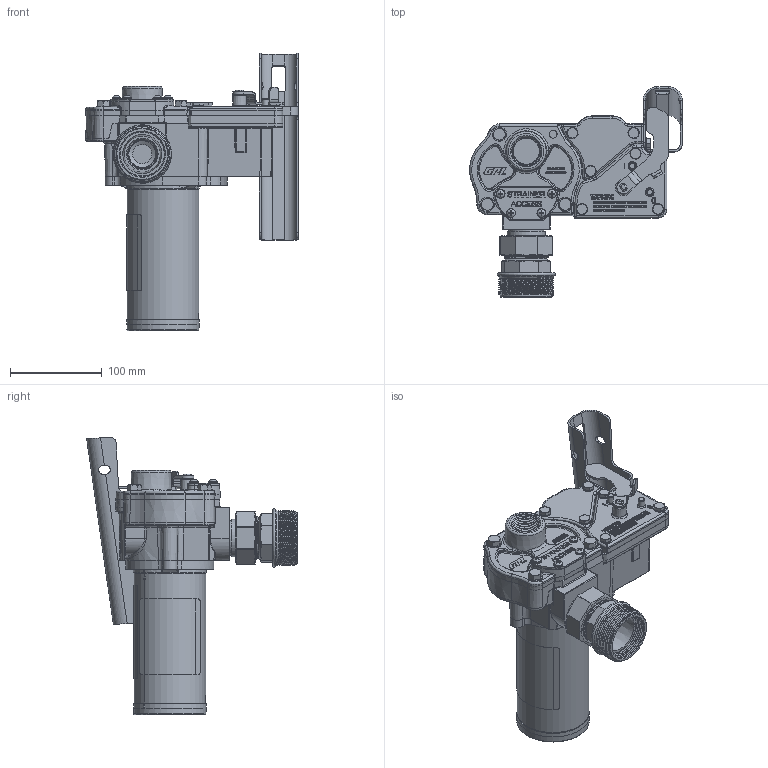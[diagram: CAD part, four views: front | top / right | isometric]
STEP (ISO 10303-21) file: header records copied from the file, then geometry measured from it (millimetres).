
FILE_DESCRIPTION(/* description */ (''),/* implementation_level */ '2;1');
FILE_NAME(/* name */ 'C:\Vault Projects\GPI Eng\New Projects\DHarris\Website model updates\STEP\M-180S-PO.stp',/* time_stamp */ '2022-07-19T11:25:22-05:00',/* author */ ('gdanhar'),/* organization */ (''),/* preprocessor_version */ 'ST-DEVELOPER v18.1',/* originating_system */ 'Autodesk Inventor 2022',/* authorisation */ '');
FILE_SCHEMA (('AUTOMOTIVE_DESIGN { 1 0 10303 214 3 1 1 }'));
Length unit declared in the file: inch
Products named in the file (1): M-180S-PO
Bounding box: 231.19 x 229.26 x 301.59 mm (x, y, z)
Volume: 2305327.2 mm3; surface area: 267101.4 mm2
Topology: 3 solids, 3 shells, 3860 faces, 10181 edges, 6505 vertices
Faces by surface type: plane 1754, bspline 935, cylinder 567, torus 313, cone 260, sphere 31
Full cylindrical faces by diameter (mm): 1.383 x1, 1.542 x1, 2.184 x4, 3.048 x1, 5.105 x2, 6.35 x5, 6.477 x4, 6.54 x1, 9.474 x4, 9.728 x4, 11.125 x6, 11.989 x6, 12.7 x2, 15.494 x3, 19.007 x1, 19.05 x1, 29.362 x5, 37.846 x2, 37.919 x5, 39.37 x6, 41.25 x1, 41.453 x3, 41.61 x6, 42.012 x1, 44.45 x1, 45.644 x7, 48.875 x7, 50.8 x1, 56.733 x7, 56.744 x1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
Entity records: 154870 total; most frequent: CARTESIAN_POINT 62703, ORIENTED_EDGE 20242, DIRECTION 15129, EDGE_CURVE 10121, VERTEX_POINT 6480, LINE 5451, VECTOR 5451, AXIS2_PLACEMENT_3D 4839
